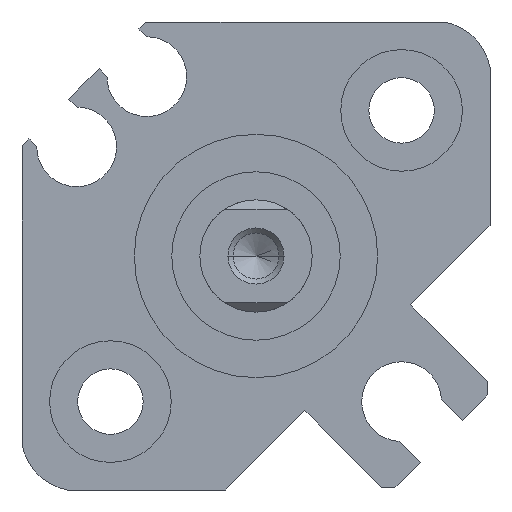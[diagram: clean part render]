
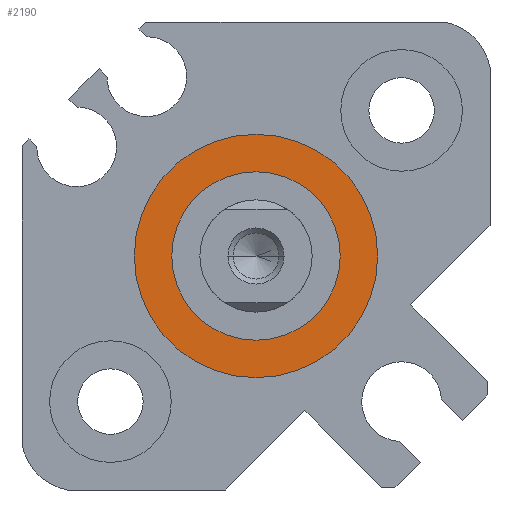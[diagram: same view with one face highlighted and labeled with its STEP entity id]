
A CAD part, left-side view. The second image highlights one B-rep face of the part: STEP entity #2190.
In plain terms, the highlighted planar face has unit normal (-1, 0, 0).
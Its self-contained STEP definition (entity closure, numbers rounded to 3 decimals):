
#14 = CIRCLE ( 'NONE', #899, 4.5 ) ;
#72 = VERTEX_POINT ( 'NONE', #1684 ) ;
#102 = DIRECTION ( 'NONE',  ( 1., 0., 0. ) ) ;
#363 = EDGE_CURVE ( 'NONE', #2073, #72, #2452, .T. ) ;
#376 = DIRECTION ( 'NONE',  ( 0., 0., -1. ) ) ;
#555 = DIRECTION ( 'NONE',  ( 0., 0., -1. ) ) ;
#646 = CIRCLE ( 'NONE', #2846, 4.5 ) ;
#703 = DIRECTION ( 'NONE',  ( 0., 0., -1. ) ) ;
#727 = ORIENTED_EDGE ( 'NONE', *, *, #1719, .T. ) ;
#753 = CARTESIAN_POINT ( 'NONE',  ( 0.9, 0., -4.5 ) ) ;
#770 = ORIENTED_EDGE ( 'NONE', *, *, #1617, .T. ) ;
#869 = DIRECTION ( 'NONE',  ( 1., 0., 0. ) ) ;
#899 = AXIS2_PLACEMENT_3D ( 'NONE', #1864, #102, #555 ) ;
#1014 = EDGE_LOOP ( 'NONE', ( #2290, #1601 ) ) ;
#1103 = CARTESIAN_POINT ( 'NONE',  ( 0.9, 0., 0. ) ) ;
#1141 = VERTEX_POINT ( 'NONE', #753 ) ;
#1213 = CIRCLE ( 'NONE', #1318, 6.5 ) ;
#1286 = CARTESIAN_POINT ( 'NONE',  ( 0.9, 0., 0. ) ) ;
#1306 = DIRECTION ( 'NONE',  ( 0., 0., -1. ) ) ;
#1318 = AXIS2_PLACEMENT_3D ( 'NONE', #1730, #2760, #703 ) ;
#1367 = VERTEX_POINT ( 'NONE', #1687 ) ;
#1486 = EDGE_LOOP ( 'NONE', ( #727, #770 ) ) ;
#1601 = ORIENTED_EDGE ( 'NONE', *, *, #2892, .F. ) ;
#1617 = EDGE_CURVE ( 'NONE', #1141, #1367, #14, .T. ) ;
#1684 = CARTESIAN_POINT ( 'NONE',  ( 0.9, 0., -6.5 ) ) ;
#1687 = CARTESIAN_POINT ( 'NONE',  ( 0.9, 0., 4.5 ) ) ;
#1719 = EDGE_CURVE ( 'NONE', #1367, #1141, #646, .T. ) ;
#1730 = CARTESIAN_POINT ( 'NONE',  ( 0.9, 0., 0. ) ) ;
#1742 = AXIS2_PLACEMENT_3D ( 'NONE', #1286, #869, #2354 ) ;
#1763 = AXIS2_PLACEMENT_3D ( 'NONE', #2566, #2614, #1306 ) ;
#1808 = CARTESIAN_POINT ( 'NONE',  ( 0.9, 0., 6.5 ) ) ;
#1864 = CARTESIAN_POINT ( 'NONE',  ( 0.9, 0., 0. ) ) ;
#2022 = FACE_OUTER_BOUND ( 'NONE', #1014, .T. ) ;
#2073 = VERTEX_POINT ( 'NONE', #1808 ) ;
#2190 = ADVANCED_FACE ( 'NONE', ( #2022, #2785 ), #2539, .F. ) ;
#2290 = ORIENTED_EDGE ( 'NONE', *, *, #363, .F. ) ;
#2354 = DIRECTION ( 'NONE',  ( 0., 1., 0. ) ) ;
#2452 = CIRCLE ( 'NONE', #1763, 6.5 ) ;
#2539 = PLANE ( 'NONE',  #1742 ) ;
#2566 = CARTESIAN_POINT ( 'NONE',  ( 0.9, 0., 0. ) ) ;
#2614 = DIRECTION ( 'NONE',  ( 1., 0., 0. ) ) ;
#2760 = DIRECTION ( 'NONE',  ( 1., 0., 0. ) ) ;
#2785 = FACE_BOUND ( 'NONE', #1486, .T. ) ;
#2846 = AXIS2_PLACEMENT_3D ( 'NONE', #1103, #3125, #376 ) ;
#2892 = EDGE_CURVE ( 'NONE', #72, #2073, #1213, .T. ) ;
#3125 = DIRECTION ( 'NONE',  ( 1., 0., 0. ) ) ;
